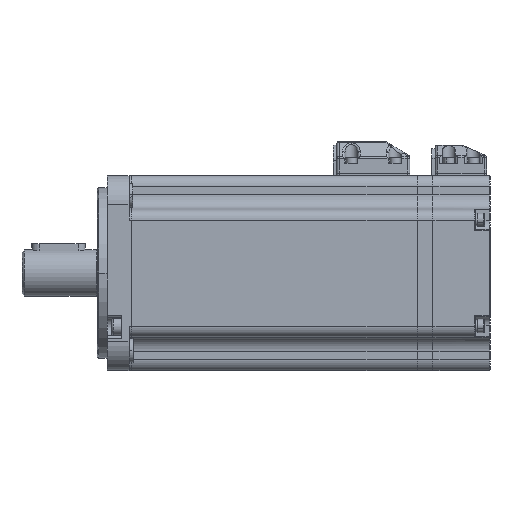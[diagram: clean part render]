
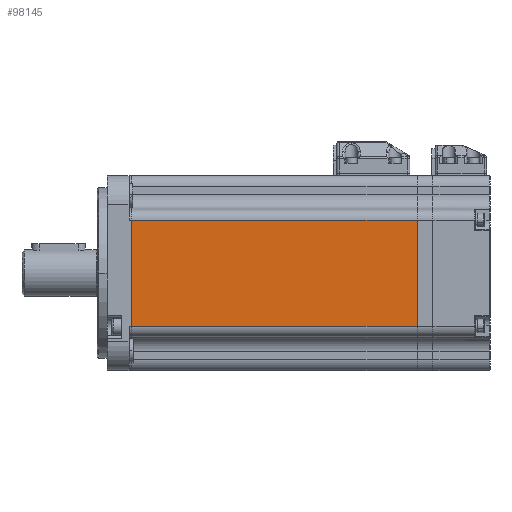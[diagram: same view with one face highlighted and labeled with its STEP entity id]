
A CAD part, front view. The second image highlights one B-rep face of the part: STEP entity #98145.
In plain terms, the highlighted planar face has unit normal (0, -1, 0).
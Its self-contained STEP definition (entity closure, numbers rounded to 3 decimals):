
#1657 = VECTOR ( 'NONE', #9469, 1000. ) ;
#7689 = PLANE ( 'NONE',  #26615 ) ;
#9469 = DIRECTION ( 'NONE',  ( 1., 0., 0. ) ) ;
#10336 = VERTEX_POINT ( 'NONE', #44261 ) ;
#11543 = EDGE_CURVE ( 'NONE', #50288, #10336, #77889, .T. ) ;
#11685 = EDGE_CURVE ( 'NONE', #50288, #62430, #17610, .T. ) ;
#17610 = LINE ( 'NONE', #58223, #60719 ) ;
#22213 = CARTESIAN_POINT ( 'NONE',  ( 162.1, -40., 26.25 ) ) ;
#26615 = AXIS2_PLACEMENT_3D ( 'NONE', #22213, #93702, #62787 ) ;
#31647 = ORIENTED_EDGE ( 'NONE', *, *, #11543, .F. ) ;
#35445 = ORIENTED_EDGE ( 'NONE', *, *, #88907, .T. ) ;
#40447 = EDGE_CURVE ( 'NONE', #62430, #58489, #93157, .T. ) ;
#40680 = DIRECTION ( 'NONE',  ( 0., 0., -1. ) ) ;
#44261 = CARTESIAN_POINT ( 'NONE',  ( 162.1, -40., -21.75 ) ) ;
#50288 = VERTEX_POINT ( 'NONE', #62090 ) ;
#55227 = CARTESIAN_POINT ( 'NONE',  ( 44.9, -40., 26.25 ) ) ;
#55922 = CARTESIAN_POINT ( 'NONE',  ( 162.1, -40., -21.75 ) ) ;
#56253 = VECTOR ( 'NONE', #78234, 1000. ) ;
#57039 = VECTOR ( 'NONE', #40680, 1000. ) ;
#58223 = CARTESIAN_POINT ( 'NONE',  ( 162.1, -40., 21.75 ) ) ;
#58489 = VERTEX_POINT ( 'NONE', #69081 ) ;
#60719 = VECTOR ( 'NONE', #88132, 1000. ) ;
#62090 = CARTESIAN_POINT ( 'NONE',  ( 162.1, -40., 21.75 ) ) ;
#62430 = VERTEX_POINT ( 'NONE', #89646 ) ;
#62787 = DIRECTION ( 'NONE',  ( 0., 0., 1. ) ) ;
#65716 = LINE ( 'NONE', #55922, #1657 ) ;
#69081 = CARTESIAN_POINT ( 'NONE',  ( 44.9, -40., -21.75 ) ) ;
#70946 = CARTESIAN_POINT ( 'NONE',  ( 162.1, -40., 26.25 ) ) ;
#73450 = FACE_OUTER_BOUND ( 'NONE', #94060, .T. ) ;
#77889 = LINE ( 'NONE', #70946, #57039 ) ;
#78093 = ORIENTED_EDGE ( 'NONE', *, *, #11685, .T. ) ;
#78234 = DIRECTION ( 'NONE',  ( 0., 0., -1. ) ) ;
#88132 = DIRECTION ( 'NONE',  ( -1., 0., 0. ) ) ;
#88907 = EDGE_CURVE ( 'NONE', #58489, #10336, #65716, .T. ) ;
#89646 = CARTESIAN_POINT ( 'NONE',  ( 44.9, -40., 21.75 ) ) ;
#90188 = ORIENTED_EDGE ( 'NONE', *, *, #40447, .T. ) ;
#93157 = LINE ( 'NONE', #55227, #56253 ) ;
#93702 = DIRECTION ( 'NONE',  ( 0., 1., 0. ) ) ;
#94060 = EDGE_LOOP ( 'NONE', ( #31647, #78093, #90188, #35445 ) ) ;
#98145 = ADVANCED_FACE ( 'NONE', ( #73450 ), #7689, .F. ) ;
